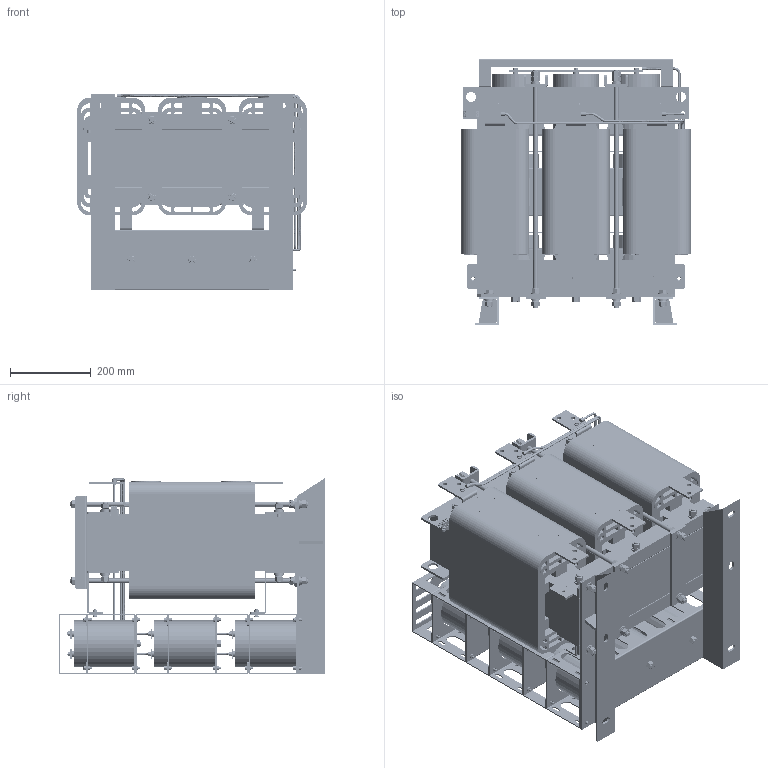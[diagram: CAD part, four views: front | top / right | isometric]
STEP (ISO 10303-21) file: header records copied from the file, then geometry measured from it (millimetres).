
FILE_DESCRIPTION(('STEP AP203'), '1');
FILE_NAME('蔓躅漤铋 耔眢耥 翳朦蝠 _ ISINOF-315_382-6', '', ('UNSPECIFIED'), ('UNSPECIFIED'), 'C3D Converter', 'C3D Toolkit', '');
FILE_SCHEMA(('CONFIG_CONTROL_DESIGN'));
Length unit declared in the file: millimetre
Products named in the file (46): ISINOF-315/382-6; m12x220; M12x590; RNB14-6S; 吒X2\0425\X0\116-150; UРНС№Мх 60x30x6; 琵X2\04270405041504230422\X0\; 琵X2\04270405041504270443\X0\; 琵X2\04370418042D0458042C\X0\2; 琵X2\04370418042D0426\X0\吭X2\04560415\X0\; 愧X2\0437\X0\琵X2\0410\X0\ іЕМх; ёЗЧУ; №么X2\04270426041C0445\X0\12x10x310; ї琵X2\041E\X0\做зЧУKV223-2P; А降еМх520-90-2; А降еМх琵X2\0436\X0\豹X2\0435\X0\118-90-2; Б枯X2\04050423\X0\豹X2\0435\X0\; ДЪДёЕЕ50x6; ЖЅ豹X2\043504560415\X0\豹X2\0435\X0\12x30x320; ЖЅ豹X2\043504560415\X0\豹X2\0435\X0\20x40x310; ИэПаМъРѕ490-520-136; ЙПјРјю-560ЎБ80ЎБ6; НвДёЕЕ50x6; ПЯИ¦382A; С№豹X2\0435\X0\; ПВјРјю-490ЎБ80ЎБ40; ПВјРјю-490ЎБ80ЎБ40 јУЅУ琵X2\042804570427\X0\; plain washers--product grade c gb_GB_FASTENER_WASHER_SMWC 12; spring lock washers--normal type gb_GB_FASTENER_WASHER_SW 12; hexagon nuts grade c gb_GB_FASTENER_NUT_SNC1 M12-N; hexagon head bolts-full thread gb_GB_FASTENER_BOLT_STBAB A M12X35-N; plain washers--product grade c gb_GB_FASTENER_WASHER_SMWC 6; hexagon head bolts-full thread gb_GB_FASTENER_BOLT_STBAB A M6X16-N; LРНЦ吭X2\04560415\X0\; LРНЦ吭X2\04560415\X0\2; Cable_2-ХэПТІЁВЛІЁЖчSKS-SF-0382-6AЈЇ05; 琵X2\043704100412\X0\^Cable_2-ХэПТІЁВЛІЁЖчSKS-SF-0382-6AЈЇ05; Cable_3-ХэПТІЁВЛІЁЖчSKS-SF-0382-6AЈЇ05; 琵X2\043704100412\X0\^Cable_3-ХэПТІЁВЛІЁЖчSKS-SF-0382-6AЈЇ05; Cable_4-ХэПТІЁВЛІЁЖчSKS-SF-0382-6AЈЇ05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
Assembly tree (362 placements, depth 3):
  ISINOF-315/382-6
    m12x220  x6
    M12x590  x4
    RNB14-6S  x9
    吒X2\0425\X0\116-150  x9
    UРНС№Мх 60x30x6  x2
    琵X2\04270405041504230422\X0\
    琵X2\04270405041504270443\X0\
    琵X2\04370418042D0458042C\X0\2  x3
    琵X2\04370418042D0426\X0\吭X2\04560415\X0\  x4
    愧X2\0437\X0\琵X2\0410\X0\ іЕМх  x12
    ёЗЧУ
    №么X2\04270426041C0445\X0\12x10x310  x24
    ї琵X2\041E\X0\做зЧУKV223-2P
    А降еМх520-90-2  x6
    А降еМх琵X2\0436\X0\豹X2\0435\X0\118-90-2  x8
    Б枯X2\04050423\X0\豹X2\0435\X0\  x6
    ДЪДёЕЕ50x6  x3
    ЖЅ豹X2\043504560415\X0\豹X2\0435\X0\12x30x320  x12
    ЖЅ豹X2\043504560415\X0\豹X2\0435\X0\20x40x310  x6
    ИэПаМъРѕ490-520-136
    ЙПјРјю-560ЎБ80ЎБ6  x2
    НвДёЕЕ50x6  x3
    ПЯИ¦382A  x3
    С№豹X2\0435\X0\  x3
    ПВјРјю-490ЎБ80ЎБ40
    ПВјРјю-490ЎБ80ЎБ40 јУЅУ琵X2\042804570427\X0\
    plain washers--product grade c gb_GB_FASTENER_WASHER_SMWC 12  x48
    spring lock washers--normal type gb_GB_FASTENER_WASHER_SW 12  x24
    hexagon nuts grade c gb_GB_FASTENER_NUT_SNC1 M12-N  x41
    hexagon head bolts-full thread gb_GB_FASTENER_BOLT_STBAB A M12X35-N  x4
    plain washers--product grade c gb_GB_FASTENER_WASHER_SMWC 6  x49
    hexagon head bolts-full thread gb_GB_FASTENER_BOLT_STBAB A M6X16-N  x49
    LРНЦ吭X2\04560415\X0\  x2
    LРНЦ吭X2\04560415\X0\2  x2
    Cable_2-ХэПТІЁВЛІЁЖчSKS-SF-0382-6AЈЇ05
      琵X2\043704100412\X0\^Cable_2-ХэПТІЁВЛІЁЖчSKS-SF-0382-6AЈЇ05
    Cable_3-ХэПТІЁВЛІЁЖчSKS-SF-0382-6AЈЇ05
      琵X2\043704100412\X0\^Cable_3-ХэПТІЁВЛІЁЖчSKS-SF-0382-6AЈЇ05
    Cable_4-ХэПТІЁВЛІЁЖчSKS-SF-0382-6AЈЇ05
      琵X2\043704100412\X0\^Cable_4-ХэПТІЁВЛІЁЖчSKS-SF-0382-6AЈЇ05
    Cable_5-ХэПТІЁВЛІЁЖчSKS-SF-0382-6AЈЇ05
      琵X2\043704100412\X0\^Cable_5-ХэПТІЁВЛІЁЖчSKS-SF-0382-6AЈЇ05
    L1 L2 L3МщЦЅ
    L1ЎЇ L2Ўｮ L3ЎЇМщЦЅ
    琵X2\0428\X0\崤X2\043A\X0\
Bounding box: 569 x 660 x 486 mm (x, y, z)
Volume: 68123685.1 mm3; surface area: 10736990.8 mm2
Topology: 394 solids, 394 shells, 5418 faces, 12691 edges, 8274 vertices
Faces by surface type: plane 3261, cylinder 1519, cone 581, bspline 39, torus 18
Full cylindrical faces by diameter (mm): 3 x2, 3.8 x2, 4 x4, 5 x3, 6 x109, 6.2 x9, 6.4 x9, 6.6 x49, 7 x12, 8 x39, 9 x2, 10.106 x41, 11 x18, 12 x89, 12.9 x24, 13.5 x48, 14 x70, 16 x18, 19.1 x24, 24 x48, 25 x4, 27.3 x1, 28.5 x1, 30 x1, 63 x6, 75 x6, 112 x9, 116 x18, 120 x9
Entity records: 77915 total; most frequent: CARTESIAN_POINT 23642, DIRECTION 7416, ORIENTED_EDGE 6572, EDGE_CURVE 3286, AXIS2_PLACEMENT_3D 2640, VERTEX_POINT 2291, LINE 2136, VECTOR 2136
